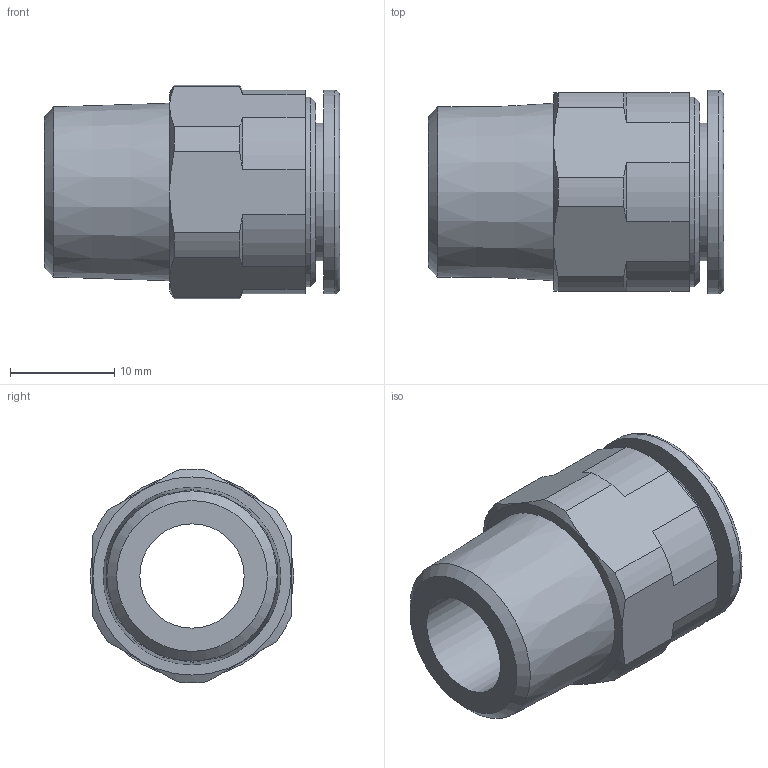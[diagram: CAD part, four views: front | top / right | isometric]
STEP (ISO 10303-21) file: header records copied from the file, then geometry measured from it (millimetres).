
FILE_DESCRIPTION(/* description */ (''),/* implementation_level */ '2;1');
FILE_NAME(/* name */ 'E:\2013年度版　3D-DATA\【02】 TOUCH CONNECTOR FIVE SUS\[01] MALE CONNECTOR\[16] FS12-03M FS12-03MW.stp',/* time_stamp */ '2013-08-06T16:44:44+09:00',/* author */ ('takahashi-pc2'),/* organization */ (''),/* preprocessor_version */ 'ST-DEVELOPER v15.2',/* originating_system */ 'Autodesk Inventor 2014',/* authorisation */ '');
FILE_SCHEMA (('AUTOMOTIVE_DESIGN { 1 0 10303 214 3 1 1 }'));
Length unit declared in the file: millimetre
Products named in the file (1): [16] FS12-03M FS12-03MW
Bounding box: 28.3 x 19.5 x 20.48 mm (x, y, z)
Volume: 4549 mm3; surface area: 3291.5 mm2
Topology: 1 solids, 1 shells, 46 faces, 108 edges, 69 vertices
Faces by surface type: cylinder 17, cone 15, plane 13, torus 1
Full cylindrical faces by diameter (mm): 10 x1, 12 x1, 13.2 x1, 18.2 x1, 19.5 x1
Entity records: 1281 total; most frequent: CARTESIAN_POINT 263, DIRECTION 214, ORIENTED_EDGE 198, EDGE_CURVE 99, AXIS2_PLACEMENT_3D 92, VERTEX_POINT 69, EDGE_LOOP 62, ADVANCED_FACE 46
